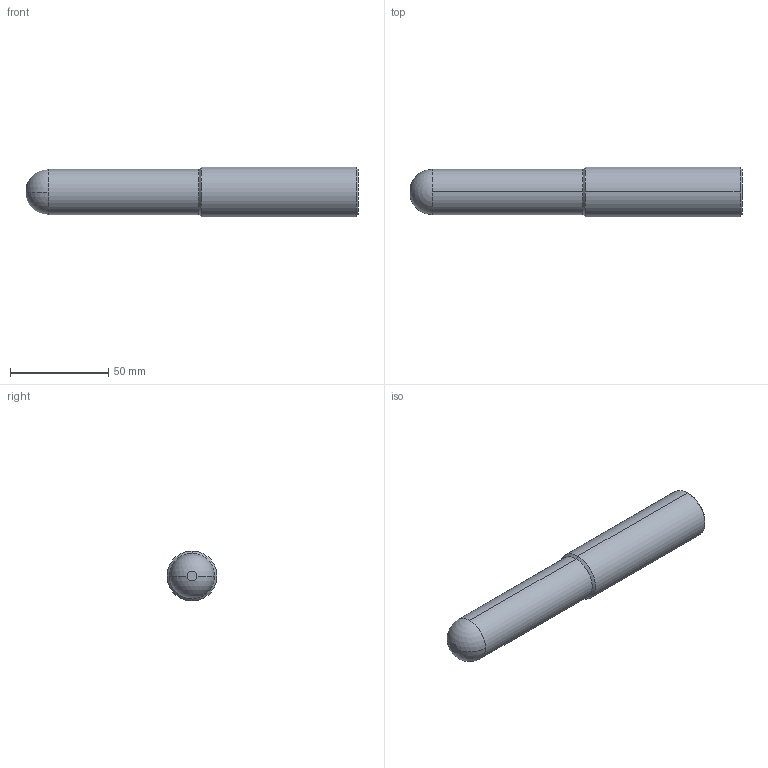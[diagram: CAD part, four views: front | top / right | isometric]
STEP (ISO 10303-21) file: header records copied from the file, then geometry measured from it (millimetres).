
FILE_DESCRIPTION (( 'STEP AP214' ), '1' );
FILE_NAME ('01-0229.STEP', '2021-02-10T00:25:55', ( 'USER' ), ( '' ), 'SwSTEP 2.0', 'SolidWorks 2018', '' );
FILE_SCHEMA (( 'AUTOMOTIVE_DESIGN' ));
Length unit declared in the file: millimetre
Products named in the file (2): 01-0229
Bounding box: 169 x 25.4 x 25.4 mm (x, y, z)
Volume: 76090 mm3; surface area: 13339 mm2
Topology: 1 solids, 1 shells, 12 faces, 26 edges, 14 vertices
Faces by surface type: cylinder 4, cone 4, sphere 2, plane 2
Entity records: 365 total; most frequent: DIRECTION 68, CARTESIAN_POINT 52, ORIENTED_EDGE 48, AXIS2_PLACEMENT_3D 30, EDGE_CURVE 24, CIRCLE 16, VERTEX_POINT 14, EDGE_LOOP 12
